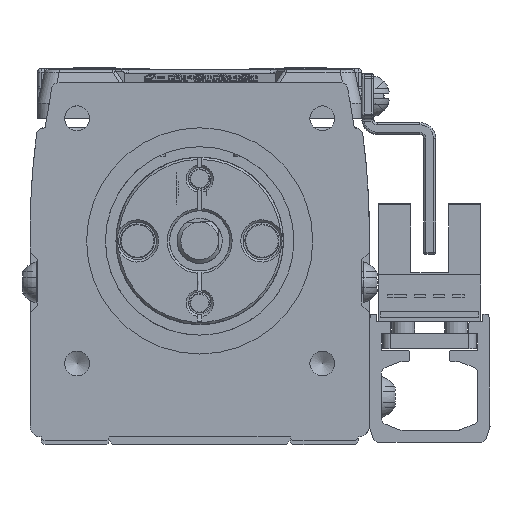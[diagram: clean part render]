
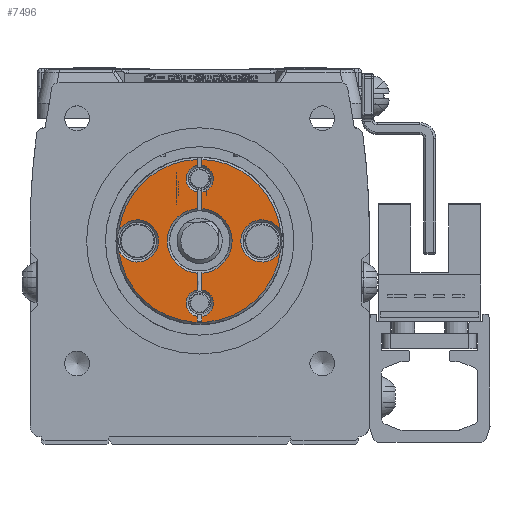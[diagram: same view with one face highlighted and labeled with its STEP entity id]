
A CAD part, left-side view. The second image highlights one B-rep face of the part: STEP entity #7496.
In plain terms, the highlighted planar face has unit normal (-1, 0, 0) as drawn and (1, 0, 0) by its records, which use the part's own axes.
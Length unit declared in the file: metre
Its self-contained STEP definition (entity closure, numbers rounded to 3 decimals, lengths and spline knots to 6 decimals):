
#7496=ADVANCED_FACE('',(#14938),#14939,.F.);
#14938=FACE_OUTER_BOUND('',#24293,.T.);
#14939=PLANE('',#24294);
#24293=EDGE_LOOP('',(#42498,#42499,#42500,#42501,#42502,#42503,#42504,#42505,#42506,#42507,#42508,#42509,#42510,#42511,#42512,#42513,#42514,#42515,#42516,#42517));
#24294=AXIS2_PLACEMENT_3D('',#42518,#42519,#42520);
#42498=ORIENTED_EDGE('',*,*,#51999,.F.);
#42499=ORIENTED_EDGE('',*,*,#50201,.T.);
#42500=ORIENTED_EDGE('',*,*,#54868,.F.);
#42501=ORIENTED_EDGE('',*,*,#54469,.F.);
#42502=ORIENTED_EDGE('',*,*,#51733,.T.);
#42503=ORIENTED_EDGE('',*,*,#53598,.T.);
#42504=ORIENTED_EDGE('',*,*,#54865,.F.);
#42505=ORIENTED_EDGE('',*,*,#55304,.F.);
#42506=ORIENTED_EDGE('',*,*,#55837,.F.);
#42507=ORIENTED_EDGE('',*,*,#50692,.T.);
#42508=ORIENTED_EDGE('',*,*,#53833,.F.);
#42509=ORIENTED_EDGE('',*,*,#53227,.F.);
#42510=ORIENTED_EDGE('',*,*,#51763,.F.);
#42511=ORIENTED_EDGE('',*,*,#51201,.F.);
#42512=ORIENTED_EDGE('',*,*,#54610,.F.);
#42513=ORIENTED_EDGE('',*,*,#51199,.F.);
#42514=ORIENTED_EDGE('',*,*,#55838,.F.);
#42515=ORIENTED_EDGE('',*,*,#51197,.F.);
#42516=ORIENTED_EDGE('',*,*,#51876,.T.);
#42517=ORIENTED_EDGE('',*,*,#55839,.F.);
#42518=CARTESIAN_POINT('',(0.0,0.0,0.));
#42519=DIRECTION('',(-1.0,0.,0.0));
#42520=DIRECTION('',(0.,-1.0,0.0));
#50201=EDGE_CURVE('',#58643,#58647,#58649,.T.);
#50692=EDGE_CURVE('',#59488,#59492,#59494,.T.);
#51197=EDGE_CURVE('',#60331,#60333,#60334,.T.);
#51199=EDGE_CURVE('',#60335,#60337,#60338,.T.);
#51201=EDGE_CURVE('',#60339,#60341,#60342,.T.);
#51733=EDGE_CURVE('',#61197,#61201,#61203,.F.);
#51763=EDGE_CURVE('',#60341,#61249,#61250,.T.);
#51876=EDGE_CURVE('',#60331,#61431,#61433,.F.);
#51999=EDGE_CURVE('',#58643,#61636,#61637,.F.);
#53227=EDGE_CURVE('',#61249,#63533,#63534,.T.);
#53598=EDGE_CURVE('',#61201,#64081,#64082,.T.);
#53833=EDGE_CURVE('',#63533,#59492,#64422,.F.);
#54469=EDGE_CURVE('',#61197,#65352,#65353,.T.);
#54610=EDGE_CURVE('',#60337,#60339,#65547,.T.);
#54865=EDGE_CURVE('',#65893,#64081,#65894,.F.);
#54868=EDGE_CURVE('',#65352,#58647,#65897,.F.);
#55304=EDGE_CURVE('',#66496,#65893,#66497,.T.);
#55837=EDGE_CURVE('',#59488,#66496,#67232,.T.);
#55838=EDGE_CURVE('',#60333,#60335,#67233,.T.);
#55839=EDGE_CURVE('',#61636,#61431,#67234,.T.);
#58643=VERTEX_POINT('',#70837);
#58647=VERTEX_POINT('',#70844);
#58649=CIRCLE('',#70849,0.0043);
#59488=VERTEX_POINT('',#72108);
#59492=VERTEX_POINT('',#72115);
#59494=CIRCLE('',#72120,0.0043);
#60331=VERTEX_POINT('',#73365);
#60333=VERTEX_POINT('',#73370);
#60334=CIRCLE('',#73371,0.0108);
#60335=VERTEX_POINT('',#73372);
#60337=VERTEX_POINT('',#73379);
#60338=CIRCLE('',#73380,0.0108);
#60339=VERTEX_POINT('',#73381);
#60341=VERTEX_POINT('',#73388);
#60342=CIRCLE('',#73389,0.0108);
#61197=VERTEX_POINT('',#74601);
#61201=VERTEX_POINT('',#74609);
#61203=LINE('',#74611,#74612);
#61249=VERTEX_POINT('',#74675);
#61250=LINE('',#74676,#74677);
#61431=VERTEX_POINT('',#74929);
#61433=LINE('',#74934,#74935);
#61636=VERTEX_POINT('',#75290);
#61637=LINE('',#75291,#75292);
#63533=VERTEX_POINT('',#78082);
#63534=CIRCLE('',#78083,0.0018);
#64081=VERTEX_POINT('',#78995);
#64082=LINE('',#78996,#78997);
#64422=LINE('',#79606,#79607);
#65352=VERTEX_POINT('',#80948);
#65353=CIRCLE('',#80949,0.0018);
#65547=CIRCLE('',#81273,0.0028);
#65893=VERTEX_POINT('',#81846);
#65894=LINE('',#81847,#81848);
#65897=LINE('',#81854,#81855);
#66496=VERTEX_POINT('',#82673);
#66497=CIRCLE('',#82674,0.0018);
#67232=LINE('',#83742,#83743);
#67233=CIRCLE('',#83744,0.0028);
#67234=CIRCLE('',#83745,0.0018);
#70837=CARTESIAN_POINT('',(0.,0.00429,-0.0003));
#70844=CARTESIAN_POINT('',(0.,-0.00429,-0.0003));
#70849=AXIS2_PLACEMENT_3D('',#87503,#87504,#87505);
#72108=CARTESIAN_POINT('',(0.,-0.00429,0.0003));
#72115=CARTESIAN_POINT('',(0.0,0.00429,0.0003));
#72120=AXIS2_PLACEMENT_3D('',#88138,#88139,#88140);
#73365=CARTESIAN_POINT('',(0.,0.010796,-0.0003));
#73370=CARTESIAN_POINT('',(0.,0.001321,-0.010719));
#73371=AXIS2_PLACEMENT_3D('',#88783,#88784,#88785);
#73372=CARTESIAN_POINT('',(0.,-0.001321,-0.010719));
#73379=CARTESIAN_POINT('',(0.,-0.001321,0.010719));
#73380=AXIS2_PLACEMENT_3D('',#88786,#88787,#88788);
#73381=CARTESIAN_POINT('',(0.,0.001321,0.010719));
#73388=CARTESIAN_POINT('',(0.,0.010796,0.0003));
#73389=AXIS2_PLACEMENT_3D('',#88789,#88790,#88791);
#74601=CARTESIAN_POINT('',(0.,-0.010025,-0.0003));
#74609=CARTESIAN_POINT('',(0.,-0.010642,-0.0003));
#74611=CARTESIAN_POINT('',(0.0,0.0025,-0.0003));
#74612=VECTOR('',#89406,1.0);
#74675=CARTESIAN_POINT('',(0.,0.010025,0.0003));
#74676=CARTESIAN_POINT('',(0.0,0.0,0.0003));
#74677=VECTOR('',#89443,1.0);
#74929=CARTESIAN_POINT('',(0.,0.010025,-0.0003));
#74934=CARTESIAN_POINT('',(0.0,0.0025,-0.0003));
#74935=VECTOR('',#89566,1.0);
#75290=CARTESIAN_POINT('',(0.,0.006475,-0.0003));
#75291=CARTESIAN_POINT('',(0.0,0.0,-0.0003));
#75292=VECTOR('',#89704,1.0);
#78082=CARTESIAN_POINT('',(0.0,0.006475,0.0003));
#78083=AXIS2_PLACEMENT_3D('',#91180,#91181,#91182);
#78995=CARTESIAN_POINT('',(0.,-0.010642,0.0003));
#78996=CARTESIAN_POINT('',(0.,-0.010642,0.0003));
#78997=VECTOR('',#91607,1.0);
#79606=CARTESIAN_POINT('',(0.0,0.0025,0.0003));
#79607=VECTOR('',#91872,1.0);
#80948=CARTESIAN_POINT('',(0.,-0.006475,-0.0003));
#80949=AXIS2_PLACEMENT_3D('',#92626,#92627,#92628);
#81273=AXIS2_PLACEMENT_3D('',#92773,#92774,#92775);
#81846=CARTESIAN_POINT('',(0.,-0.010025,0.0003));
#81847=CARTESIAN_POINT('',(0.0,0.0025,0.0003));
#81848=VECTOR('',#93034,1.0);
#81854=CARTESIAN_POINT('',(0.0,0.0,-0.0003));
#81855=VECTOR('',#93035,1.0);
#82673=CARTESIAN_POINT('',(0.,-0.006475,0.0003));
#82674=AXIS2_PLACEMENT_3D('',#93499,#93500,#93501);
#83742=CARTESIAN_POINT('',(0.0,0.0,0.0003));
#83743=VECTOR('',#94090,1.0);
#83744=AXIS2_PLACEMENT_3D('',#94091,#94092,#94093);
#83745=AXIS2_PLACEMENT_3D('',#94094,#94095,#94096);
#87503=CARTESIAN_POINT('',(0.,0.,0.));
#87504=DIRECTION('',(-1.0,0.,0.0));
#87505=DIRECTION('',(0.,-1.0,0.0));
#88138=CARTESIAN_POINT('',(0.,0.,0.));
#88139=DIRECTION('',(-1.0,0.,0.0));
#88140=DIRECTION('',(0.,-1.0,0.0));
#88783=CARTESIAN_POINT('',(0.,0.0,0.));
#88784=DIRECTION('',(-1.0,0.0,0.0));
#88785=DIRECTION('',(0.0,0.0,1.0));
#88786=CARTESIAN_POINT('',(0.,0.0,0.));
#88787=DIRECTION('',(-1.0,0.0,0.0));
#88788=DIRECTION('',(0.0,0.0,1.0));
#88789=CARTESIAN_POINT('',(0.,0.0,0.));
#88790=DIRECTION('',(-1.0,0.0,0.0));
#88791=DIRECTION('',(0.0,0.0,1.0));
#89406=DIRECTION('',(0.0,1.0,0.0));
#89443=DIRECTION('',(0.,-1.0,0.0));
#89566=DIRECTION('',(0.0,1.0,0.0));
#89704=DIRECTION('',(0.,-1.0,0.0));
#91180=CARTESIAN_POINT('',(0.0,0.00825,0.));
#91181=DIRECTION('',(1.0,0.0,0.0));
#91182=DIRECTION('',(0.0,0.0,-1.0));
#91607=DIRECTION('',(0.0,0.0,1.0));
#91872=DIRECTION('',(0.0,1.0,0.0));
#92626=CARTESIAN_POINT('',(0.0,-0.00825,0.));
#92627=DIRECTION('',(1.0,0.0,0.0));
#92628=DIRECTION('',(0.0,0.0,-1.0));
#92773=CARTESIAN_POINT('',(0.0,0.,0.00825));
#92774=DIRECTION('',(1.0,0.,0.0));
#92775=DIRECTION('',(0.,1.0,0.0));
#93034=DIRECTION('',(0.0,1.0,0.0));
#93035=DIRECTION('',(0.,-1.0,0.0));
#93499=CARTESIAN_POINT('',(0.0,-0.00825,0.));
#93500=DIRECTION('',(1.0,0.0,0.0));
#93501=DIRECTION('',(0.0,0.0,-1.0));
#94090=DIRECTION('',(0.,-1.0,0.0));
#94091=CARTESIAN_POINT('',(0.,0.,-0.00825));
#94092=DIRECTION('',(1.0,0.,0.0));
#94093=DIRECTION('',(0.,1.0,0.0));
#94094=CARTESIAN_POINT('',(0.0,0.00825,0.));
#94095=DIRECTION('',(1.0,0.0,0.0));
#94096=DIRECTION('',(0.0,0.0,-1.0));
